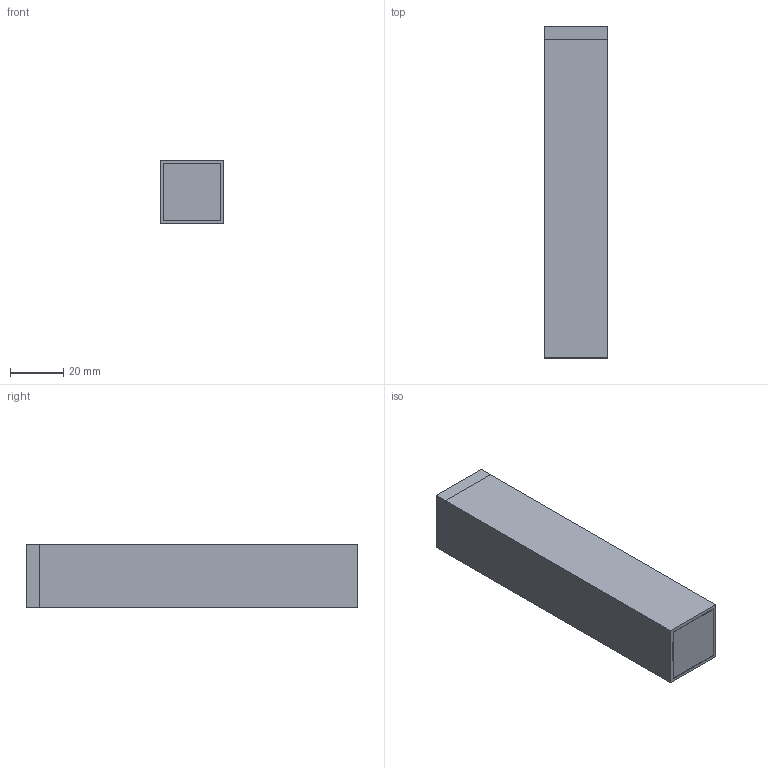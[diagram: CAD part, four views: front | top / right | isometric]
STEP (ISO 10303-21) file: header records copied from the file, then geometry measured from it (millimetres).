
FILE_DESCRIPTION(/* description */ (''),/* implementation_level */ '2;1');
FILE_NAME(/* name */ 'BM02-S2424-125L-N.step',/* time_stamp */ '2025-10-10T15:35:31+09:00',/* author */ (''),/* organization */ (''),/* preprocessor_version */ 'ST-DEVELOPER v20.1',/* originating_system */ 'Autodesk Translation Framework v14.17.0.0',/* authorisation */ '');
FILE_SCHEMA (('AUTOMOTIVE_DESIGN { 1 0 10303 214 3 1 1 }'));
Length unit declared in the file: millimetre
Products named in the file (4): BM02-S2424-125L-N; Component1; Component2; Component3
Assembly tree (3 placements, depth 2):
  BM02-S2424-125L-N
    Component1
    Component2
    Component3
Bounding box: 24 x 125 x 24 mm (x, y, z)
Volume: 64427.6 mm3; surface area: 35214.2 mm2
Topology: 4 solids, 4 shells, 39 faces, 85 edges, 55 vertices
Faces by surface type: plane 37, cone 1, cylinder 1
Full cylindrical faces by diameter (mm): 4.234 x1
Entity records: 1172 total; most frequent: CARTESIAN_POINT 185, DIRECTION 178, ORIENTED_EDGE 168, EDGE_CURVE 84, LINE 82, VECTOR 82, VERTEX_POINT 55, AXIS2_PLACEMENT_3D 48
